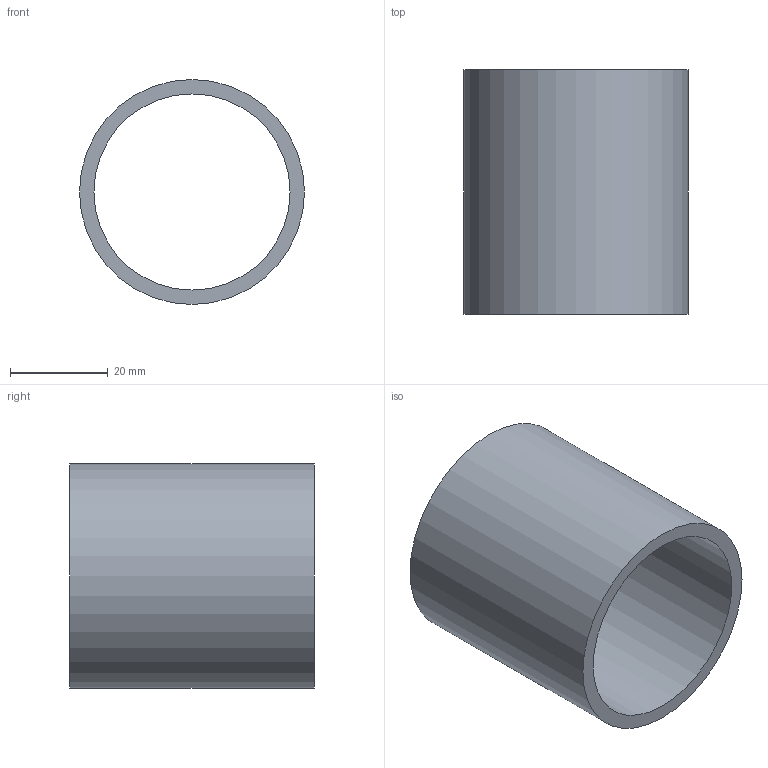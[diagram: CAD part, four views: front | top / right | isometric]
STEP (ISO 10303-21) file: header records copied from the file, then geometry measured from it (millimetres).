
FILE_DESCRIPTION(('Open CASCADE Model'),'2;1');
FILE_NAME('Open CASCADE Shape Model','2026-10-18T22:58:19',('Author'),( 'Open CASCADE'),'Open CASCADE STEP processor 7.9','Open CASCADE 7.9' ,'Unknown');
FILE_SCHEMA(('AUTOMOTIVE_DESIGN { 1 0 10303 214 1 1 1 1 }'));
Length unit declared in the file: millimetre
Products named in the file (1): Open CASCADE STEP translator 7.9 16
Bounding box: 46 x 50 x 46 mm (x, y, z)
Volume: 19948.7 mm3; surface area: 14322.5 mm2
Topology: 1 solids, 1 shells, 4 faces, 6 edges, 4 vertices
Faces by surface type: cylinder 2, plane 2
Full cylindrical faces by diameter (mm): 40.1 x1, 46 x1
Entity records: 186 total; most frequent: DIRECTION 32, CARTESIAN_POINT 27, ORIENTED_EDGE 12, PCURVE 12, DEFINITIONAL_REPRESENTATION 12, LINE 10, VECTOR 10, AXIS2_PLACEMENT_3D 9
